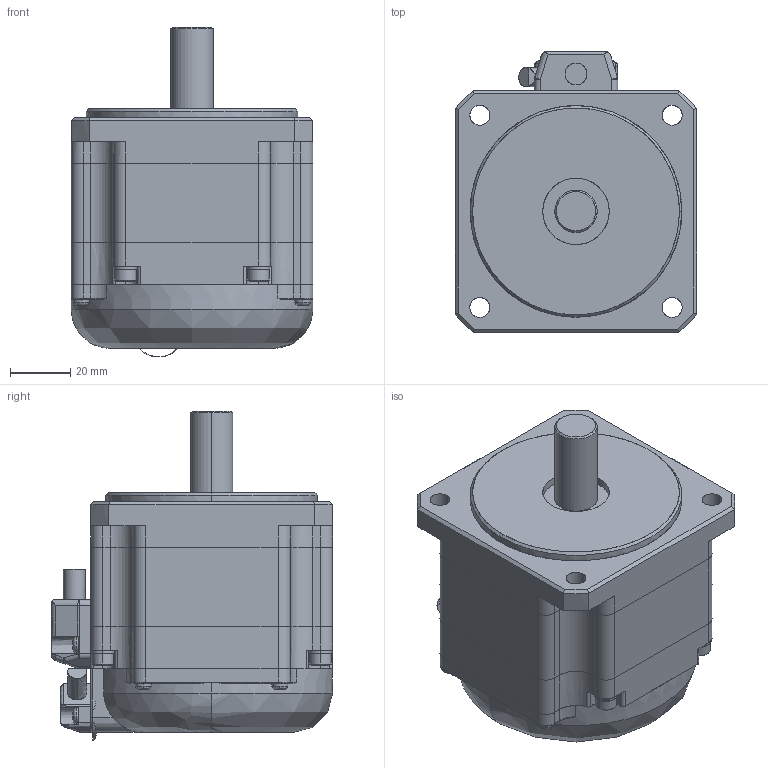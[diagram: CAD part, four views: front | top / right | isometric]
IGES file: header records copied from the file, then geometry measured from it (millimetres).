
Start section: SolidWorks IGES file using analytic representation for surfaces
Global section: file name: C:\Users\render\Documents\CAD Files\TamagawaMotors\TBL-iII-Series-14.5~80\TS4612\TS4612.IGS; native system: SolidWorks 2009; preprocessor: SolidWorks 2009; author: render; date: 100806.102203; units: millimetre
Bounding box: 80 x 93 x 109.14 mm (x, y, z)
Surface area: 72438.5 mm2 (no closed solid volume)
Topology: 0 solids, 0 shells, 632 faces, 5325 edges, 5304 vertices
Faces by surface type: bspline 355, revolution 277
